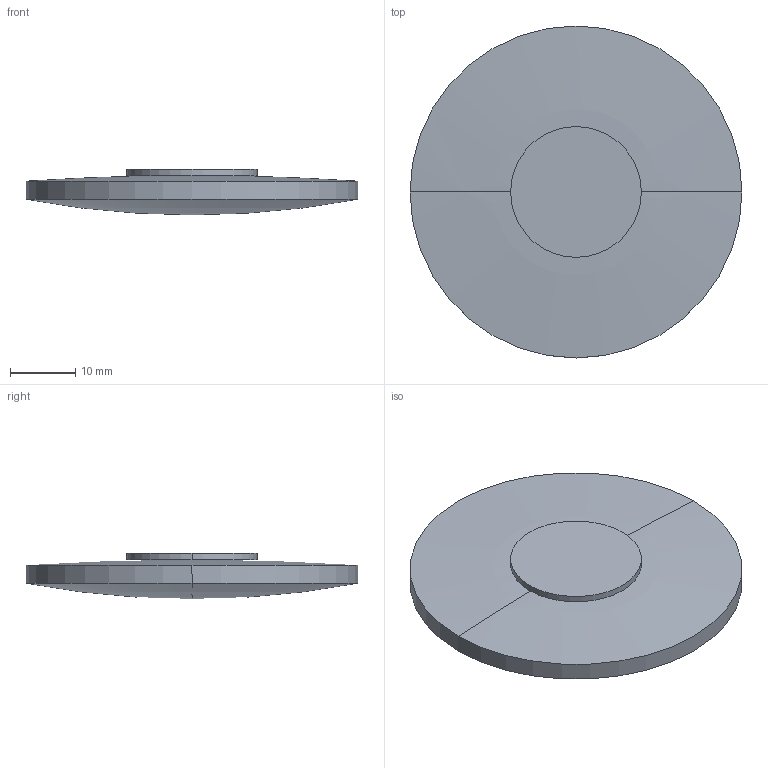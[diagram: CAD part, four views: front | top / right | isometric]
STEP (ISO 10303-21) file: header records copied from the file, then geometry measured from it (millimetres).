
FILE_DESCRIPTION(('STEP AP214'),'1');
FILE_NAME('LLZ-51150.STEP','2020-03-09T17:42:36',(' '),(' '),'Spatial InterOp 3D',' ',' ');
FILE_SCHEMA(('AUTOMOTIVE_DESIGN { 1 0 10303 214 1 1 1 1 }'));
Length unit declared in the file: millimetre
Products named in the file (1): 1
Bounding box: 50.8 x 50.8 x 7 mm (x, y, z)
Volume: 9222.3 mm3; surface area: 5208.9 mm2
Topology: 2 solids, 2 shells, 10 faces, 20 edges, 10 vertices
Faces by surface type: sphere 4, cylinder 4, plane 2
Entity records: 255 total; most frequent: DIRECTION 52, CARTESIAN_POINT 38, ORIENTED_EDGE 32, AXIS2_PLACEMENT_3D 24, EDGE_CURVE 16, CIRCLE 12, ADVANCED_FACE 10, FACE_OUTER_BOUND 10
